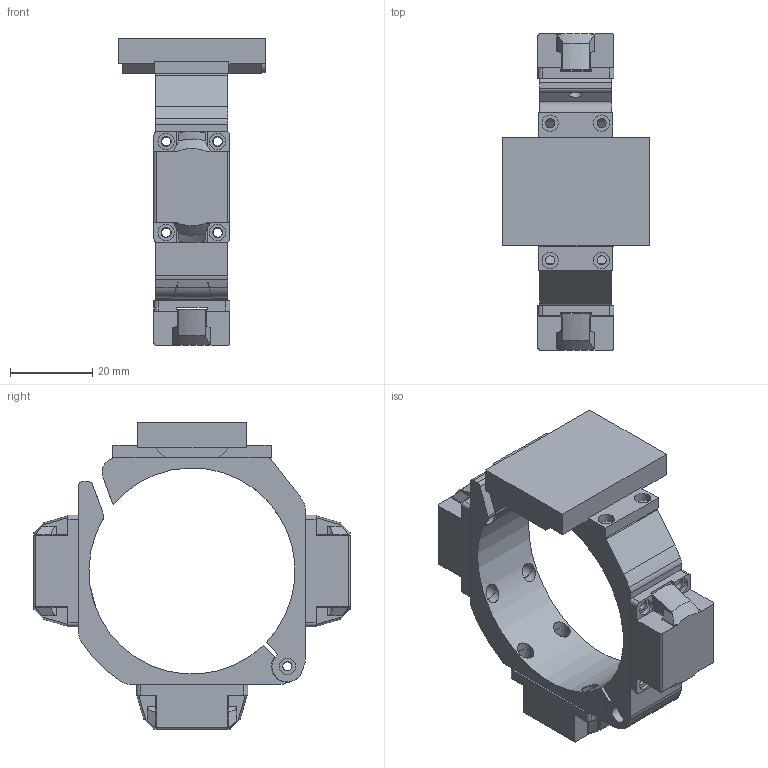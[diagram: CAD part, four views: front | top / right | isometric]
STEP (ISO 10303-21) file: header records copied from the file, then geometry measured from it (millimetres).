
FILE_DESCRIPTION(/* description */ (''),/* implementation_level */ '2;1');
FILE_NAME(/* name */ 'TELbit_sensor.stp',/* time_stamp */ '2026-08-31T14:32:17+02:00',/* author */ (''),/* organization */ (''),/* preprocessor_version */ 'ST-DEVELOPER v20',/* originating_system */ 'SIEMENS PLM Software NX2312.9162',/* authorisation */ '');
FILE_SCHEMA (('AUTOMOTIVE_DESIGN { 1 0 10303 214 3 1 1 1 }'));
Length unit declared in the file: millimetre
Products named in the file (1): TELbit_sensor_objects
Bounding box: 35.65 x 76.8 x 74.4 mm (x, y, z)
Volume: 34096.3 mm3; surface area: 23270.1 mm2
Topology: 6 solids, 6 shells, 445 faces, 1252 edges, 848 vertices
Faces by surface type: plane 247, cylinder 172, bspline 16, cone 10
Full cylindrical faces by diameter (mm): 2.2 x22, 2.4 x13, 3.2 x2, 3.8 x16, 4 x33, 4.8 x1, 6 x1
Entity records: 15144 total; most frequent: CARTESIAN_POINT 4220, ORIENTED_EDGE 2186, DIRECTION 2114, EDGE_CURVE 1093, VERTEX_POINT 783, AXIS2_PLACEMENT_3D 754, EDGE_LOOP 662, LINE 606
